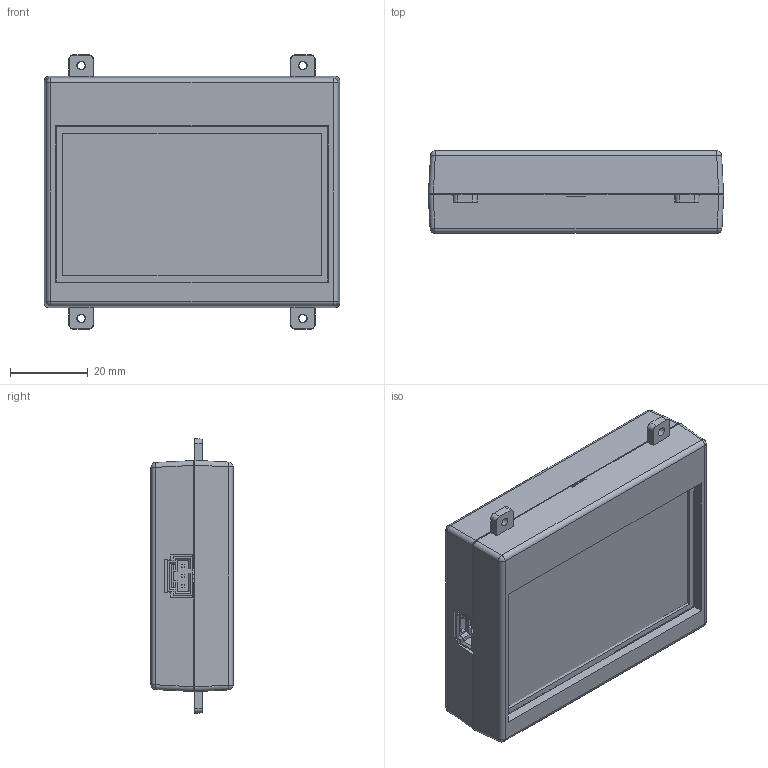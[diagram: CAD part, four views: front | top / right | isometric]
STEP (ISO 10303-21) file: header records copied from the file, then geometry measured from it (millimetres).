
FILE_DESCRIPTION(/* description */ ('Alibre Inc.'),/* implementation_level */ '2;1');
FILE_NAME(/* name */ 'export-936E2578-6E6D-4001-B2BD-846A363CBA12',/* time_stamp */ '2024-02-01T15:47:26-07:00',/* author */ (''),/* organization */ (''),/* preprocessor_version */ 'ST-DEVELOPER v17',/* originating_system */ 'Alibre',/* authorisation */ '');
FILE_SCHEMA (('CONFIG_CONTROL_DESIGN'));
Products named in the file (105): Board; Extruded; 5838273792; 5838273600; R4; SW3dPS-LQFP32_Board2; SW3dPS-LQFP32_Extruded15; SW3dPS-LQFP32_450941905; SW3dPS-LQFP32_Free-Models3; SW3dPS-LQFP32_PINLQFP-33; SW3dPS-LQFP32_Extruded10; SW3dPS-LQFP32_450944593; SW3dPS-LQFP32_Extruded16; SW3dPS-LQFP32_450945361; SW3dPS-LQFP32_Extruded14; SW3dPS-LQFP32_450942161; SW3dPS-LQFP32_Extruded11; SW3dPS-LQFP32_450941521; SW3dPS-LQFP32_Extruded13; SW3dPS-LQFP32_450943313; SW3dPS-LQFP32_Extruded19; SW3dPS-LQFP32_450942289; SW3dPS-LQFP32_Extruded12; SW3dPS-LQFP32_450941393; SW3dPS-LQFP32_Cylinder1; SW3dPS-LQFP32_450709041; SW3dPS-LQFP32_Extruded18; SW3dPS-LQFP32_450942033; SW3dPS-LQFP32_Extruded17; SW3dPS-LQFP32_450944977; SW3dPS-LQFP32_Free-Models2; SW3dPS-LQFP32_Board3; SW3dPS-LQFP32; U1; R3; 5838272832; L2; 5838273408; L1; 5838273216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
Bounding box: 76.2 x 21.17 x 70.82 mm (x, y, z)
Volume: 50574.6 mm3; surface area: 55661.2 mm2
Topology: 144 solids, 146 shells, 2101 faces, 5364 edges, 3549 vertices
Faces by surface type: plane 1898, cylinder 157, bspline 22, cone 16, sphere 8
Full cylindrical faces by diameter (mm): 0.711 x30, 1.5 x2, 2.794 x2, 3.175 x4, 3.81 x2
Entity records: 42738 total; most frequent: CARTESIAN_POINT 6692, ORIENTED_EDGE 5054, DIRECTION 4395, EDGE_CURVE 2531, VECTOR 2061, LINE 2061, VERTEX_POINT 1675, AXIS2_PLACEMENT_3D 1517
